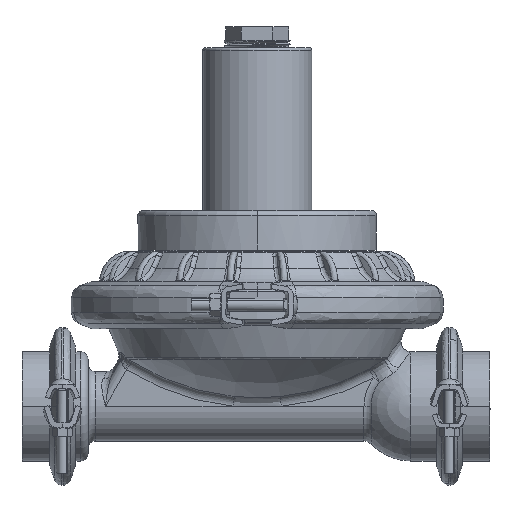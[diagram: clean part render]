
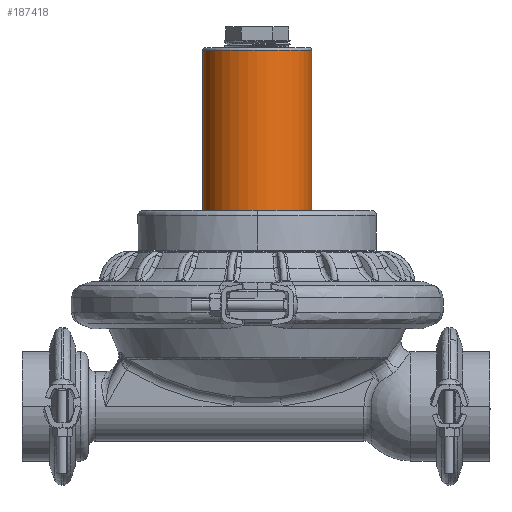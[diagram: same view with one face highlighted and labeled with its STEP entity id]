
A CAD part, top view. The second image highlights one B-rep face of the part: STEP entity #187418.
In plain terms, the highlighted cylindrical face has radius 34.798 mm (diameter 69.596 mm), a partial arc.
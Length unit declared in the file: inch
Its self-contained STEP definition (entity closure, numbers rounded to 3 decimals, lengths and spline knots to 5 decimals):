
#2013 = AXIS2_PLACEMENT_3D ( 'NONE', #7380, #63682, #137094 ) ;
#6178 = ORIENTED_EDGE ( 'NONE', *, *, #155405, .F. ) ;
#7380 = CARTESIAN_POINT ( 'NONE',  ( 0., 0.18, 0. ) ) ;
#16111 = EDGE_LOOP ( 'NONE', ( #147577, #6178, #100554, #22276 ) ) ;
#20736 = DIRECTION ( 'NONE',  ( 0., 1., 0. ) ) ;
#22276 = ORIENTED_EDGE ( 'NONE', *, *, #54544, .F. ) ;
#28759 = DIRECTION ( 'NONE',  ( 0., -1., 0. ) ) ;
#32747 = AXIS2_PLACEMENT_3D ( 'NONE', #151433, #20736, #132442 ) ;
#48579 = DIRECTION ( 'NONE',  ( 0., -1., 0. ) ) ;
#54544 = EDGE_CURVE ( 'NONE', #163101, #131588, #84271, .T. ) ;
#55543 = CARTESIAN_POINT ( 'NONE',  ( -1.37, 4.533, 0. ) ) ;
#59396 = VECTOR ( 'NONE', #48579, 39.37008 ) ;
#63682 = DIRECTION ( 'NONE',  ( 0., -1., 0. ) ) ;
#71705 = DIRECTION ( 'NONE',  ( 1., 0., 0. ) ) ;
#82475 = VERTEX_POINT ( 'NONE', #186087 ) ;
#84271 = CIRCLE ( 'NONE', #2013, 1.37 ) ;
#89963 = VERTEX_POINT ( 'NONE', #55543 ) ;
#100554 = ORIENTED_EDGE ( 'NONE', *, *, #143782, .T. ) ;
#101689 = VECTOR ( 'NONE', #156501, 39.37008 ) ;
#105465 = CIRCLE ( 'NONE', #32747, 1.37 ) ;
#117079 = AXIS2_PLACEMENT_3D ( 'NONE', #118372, #28759, #71705 ) ;
#118372 = CARTESIAN_POINT ( 'NONE',  ( 0., 4.593, 0. ) ) ;
#121998 = CARTESIAN_POINT ( 'NONE',  ( 1.37, 4.533, 0. ) ) ;
#131588 = VERTEX_POINT ( 'NONE', #175998 ) ;
#131762 = FACE_OUTER_BOUND ( 'NONE', #16111, .T. ) ;
#132442 = DIRECTION ( 'NONE',  ( -1., 0., 0. ) ) ;
#137094 = DIRECTION ( 'NONE',  ( 1., 0., 0. ) ) ;
#142152 = CARTESIAN_POINT ( 'NONE',  ( -1.37, 4.533, 0. ) ) ;
#143782 = EDGE_CURVE ( 'NONE', #89963, #131588, #170792, .T. ) ;
#147577 = ORIENTED_EDGE ( 'NONE', *, *, #185006, .F. ) ;
#147966 = CYLINDRICAL_SURFACE ( 'NONE', #117079, 1.37 ) ;
#151433 = CARTESIAN_POINT ( 'NONE',  ( 0., 4.533, 0. ) ) ;
#155405 = EDGE_CURVE ( 'NONE', #89963, #82475, #105465, .T. ) ;
#156501 = DIRECTION ( 'NONE',  ( 0., -1., 0. ) ) ;
#159806 = CARTESIAN_POINT ( 'NONE',  ( 1.37, 0.18, 0. ) ) ;
#163101 = VERTEX_POINT ( 'NONE', #159806 ) ;
#170792 = LINE ( 'NONE', #142152, #101689 ) ;
#175998 = CARTESIAN_POINT ( 'NONE',  ( -1.37, 0.18, 0. ) ) ;
#179282 = LINE ( 'NONE', #121998, #59396 ) ;
#185006 = EDGE_CURVE ( 'NONE', #82475, #163101, #179282, .T. ) ;
#186087 = CARTESIAN_POINT ( 'NONE',  ( 1.37, 4.533, 0. ) ) ;
#187418 = ADVANCED_FACE ( 'NONE', ( #131762 ), #147966, .T. ) ;
